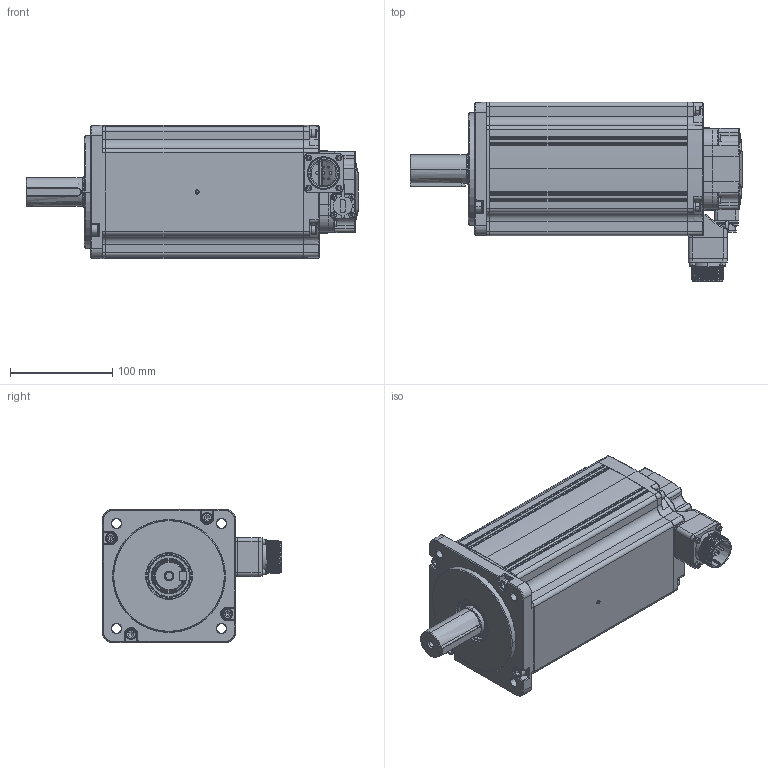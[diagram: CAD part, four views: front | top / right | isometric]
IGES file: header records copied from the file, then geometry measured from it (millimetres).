
Start section: SolidWorks IGES file using analytic representation for surfaces
Global section: file name: Z:\Products\Servo\08.2024\UNITRONICS\B5\UMM-0050EA-B5.IGS; native system: SolidWorks 2022; preprocessor: SolidWorks 2022; author: OfirZ; date: 240820.122836; units: millimetre
Bounding box: 324 x 174.95 x 130 mm (x, y, z)
Surface area: 195584.6 mm2 (no closed solid volume)
Topology: 0 solids, 0 shells, 959 faces, 10694 edges, 10652 vertices
Faces by surface type: bspline 538, revolution 421
